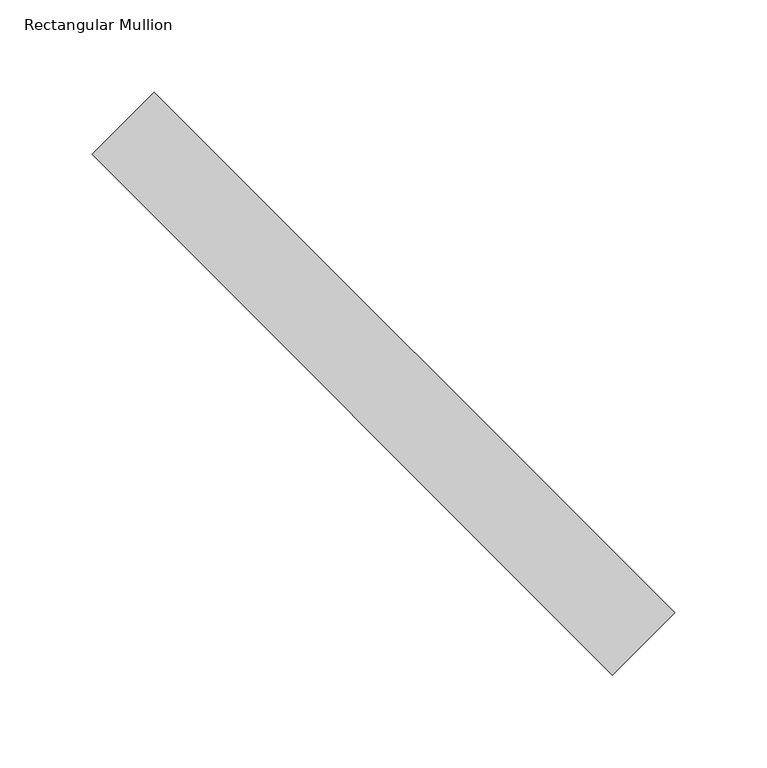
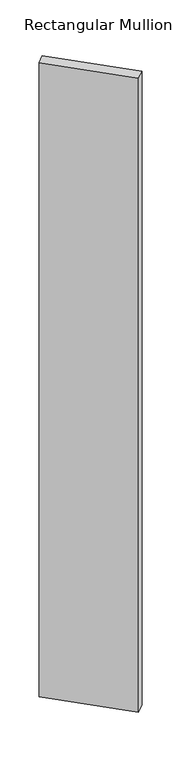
"""IFC4 building model written with IfcOpenShell, lengths in millimetres: member geometry, Rectangular Mullion : RSen_21_CWM_blade - cubic 400 - 45°_gen_duco projects."""

from ifc_helpers import new_model, si_unit, frame, origin, place, context, project, spatial, polyline, outline, extrude, source, transform, mapped, element, save


def rectangular_mullion_57607088(model_context):
    return source(origin(), model_context, "Body", "SweptSolid", [
        extrude(outline(polyline([(124.4507935, 28.608081), (-158.391919, 311.4507935), (-124.4507935, 345.391919), (158.391919, 62.5492065), (124.4507935, 28.608081)])), frame((0.0, 0.0, -3000.0), z_axis=(0.0, 0.0, 1.0), x_axis=(1.0, 0.0, 0.0)), (0.0, 0.0, 1.0), 3000.0),
    ])


if __name__ == "__main__":
    model = new_model("IFC4")
    model_context = context("Model", 3, world=origin())
    ifc_project = project(units=[si_unit("LENGTHUNIT", "METRE", prefix="MILLI")], contexts=[model_context])
    site = spatial("IfcSite", under=ifc_project)
    building = spatial("IfcBuilding", under=site)
    placement = place(None, origin())
    rectangular_mullion_shape = rectangular_mullion_57607088(model_context)
    element("IfcMember", 1, ObjectType="Rectangular Mullion : RSen_21_CWM_blade - cubic 400 - 45°_gen_duco projects", at=placement, inside=building, context=model_context, shape_type="MappedRepresentation", body=[
        mapped(rectangular_mullion_shape, transform((0.0, 0.0, 0.0), x_axis=(1.0, 0.0, 0.0), y_axis=(0.0, 1.0, 0.0), z_axis=(0.0, 0.0, 1.0))),
    ])
    save(model, "model.ifc")
